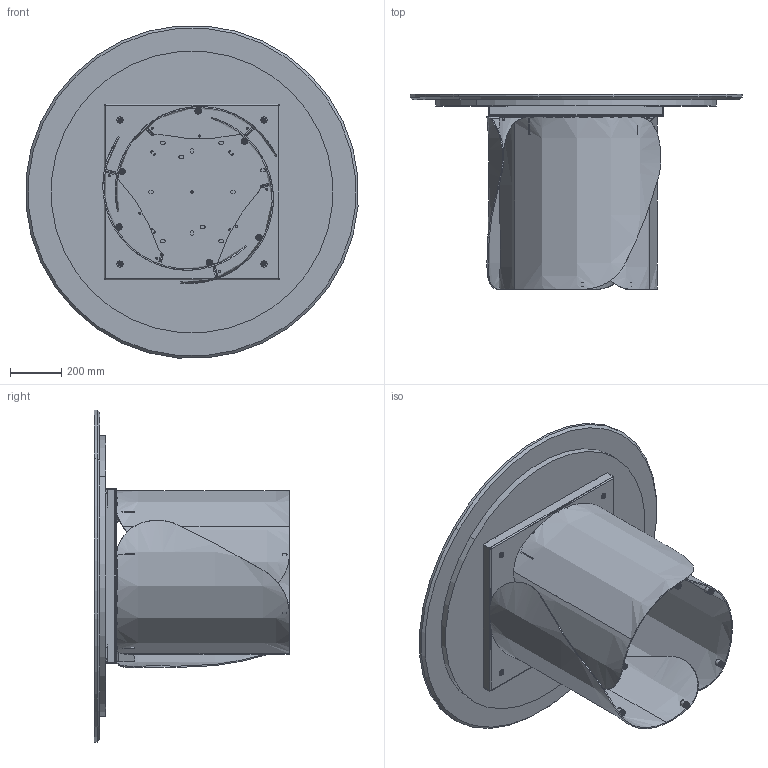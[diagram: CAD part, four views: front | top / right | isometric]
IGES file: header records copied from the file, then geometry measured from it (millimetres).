
Start section: SolidWorks IGES file using analytic representation for surfaces
Global section: file name: Y:\eforma\TECNICO\SOLIDWORKS\E-FORMA\1-TAVOLI\ONDA\02 parts\ON05M.IGS; native system: SolidWorks 2022; preprocessor: SolidWorks 2022; author: eforma.tech; date: 240806.152826; units: millimetre
Bounding box: 1295.05 x 761 x 1295.05 mm (x, y, z)
Volume: 60857813.5 mm3; surface area: 9340738.4 mm2
Topology: 63 solids, 63 shells, 1715 faces, 4041 edges, 2479 vertices
Faces by surface type: revolution 979, plane 676, bspline 60
